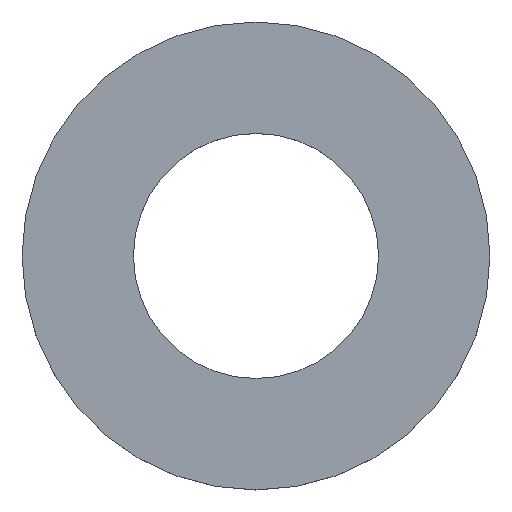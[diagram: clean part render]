
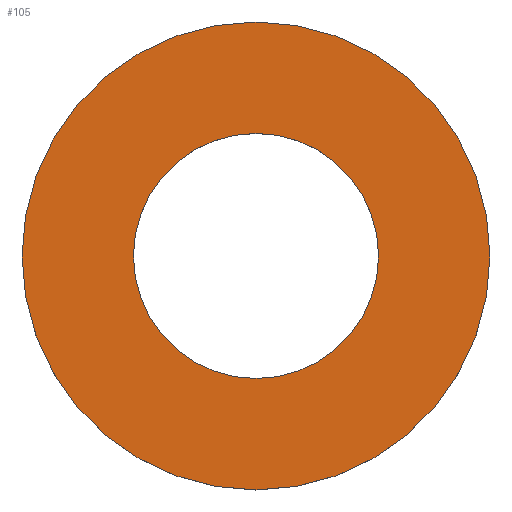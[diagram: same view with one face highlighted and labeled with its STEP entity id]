
A CAD part, top view. The second image highlights one B-rep face of the part: STEP entity #105.
In plain terms, the highlighted planar face has unit normal (0, 0, 1).
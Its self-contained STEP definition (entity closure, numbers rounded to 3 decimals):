
#21 = EDGE_CURVE('',#22,#22,#24,.T.);
#22 = VERTEX_POINT('',#23);
#23 = CARTESIAN_POINT('',(10.6,26.1,9.2));
#24 = SURFACE_CURVE('',#25,(#30,#42),.PCURVE_S1.);
#25 = CIRCLE('',#26,2.1);
#26 = AXIS2_PLACEMENT_3D('',#27,#28,#29);
#27 = CARTESIAN_POINT('',(8.5,26.1,9.2));
#28 = DIRECTION('',(0.,0.,1.));
#29 = DIRECTION('',(1.,0.,-0.));
#30 = PCURVE('',#31,#36);
#31 = CYLINDRICAL_SURFACE('',#32,2.1);
#32 = AXIS2_PLACEMENT_3D('',#33,#34,#35);
#33 = CARTESIAN_POINT('',(8.5,26.1,8.9));
#34 = DIRECTION('',(0.,0.,1.));
#35 = DIRECTION('',(1.,0.,-0.));
#36 = DEFINITIONAL_REPRESENTATION('',(#37),#41);
#37 = LINE('',#38,#39);
#38 = CARTESIAN_POINT('',(0.,0.3));
#39 = VECTOR('',#40,1.);
#40 = DIRECTION('',(1.,0.));
#41 = ( GEOMETRIC_REPRESENTATION_CONTEXT(2) 
PARAMETRIC_REPRESENTATION_CONTEXT() REPRESENTATION_CONTEXT('2D SPACE',''
  ) );
#42 = PCURVE('',#43,#48);
#43 = PLANE('',#44);
#44 = AXIS2_PLACEMENT_3D('',#45,#46,#47);
#45 = CARTESIAN_POINT('',(8.5,26.1,9.2));
#46 = DIRECTION('',(0.,0.,1.));
#47 = DIRECTION('',(1.,0.,-0.));
#48 = DEFINITIONAL_REPRESENTATION('',(#49),#53);
#49 = CIRCLE('',#50,2.1);
#50 = AXIS2_PLACEMENT_2D('',#51,#52);
#51 = CARTESIAN_POINT('',(0.,0.));
#52 = DIRECTION('',(1.,0.));
#53 = ( GEOMETRIC_REPRESENTATION_CONTEXT(2) 
PARAMETRIC_REPRESENTATION_CONTEXT() REPRESENTATION_CONTEXT('2D SPACE',''
  ) );
#105 = ADVANCED_FACE('',(#106,#109),#43,.T.);
#106 = FACE_BOUND('',#107,.T.);
#107 = EDGE_LOOP('',(#108));
#108 = ORIENTED_EDGE('',*,*,#21,.T.);
#109 = FACE_BOUND('',#110,.T.);
#110 = EDGE_LOOP('',(#111));
#111 = ORIENTED_EDGE('',*,*,#112,.F.);
#112 = EDGE_CURVE('',#113,#113,#115,.T.);
#113 = VERTEX_POINT('',#114);
#114 = CARTESIAN_POINT('',(9.6,26.1,9.2));
#115 = SURFACE_CURVE('',#116,(#121,#128),.PCURVE_S1.);
#116 = CIRCLE('',#117,1.1);
#117 = AXIS2_PLACEMENT_3D('',#118,#119,#120);
#118 = CARTESIAN_POINT('',(8.5,26.1,9.2));
#119 = DIRECTION('',(0.,0.,1.));
#120 = DIRECTION('',(1.,0.,-0.));
#121 = PCURVE('',#43,#122);
#122 = DEFINITIONAL_REPRESENTATION('',(#123),#127);
#123 = CIRCLE('',#124,1.1);
#124 = AXIS2_PLACEMENT_2D('',#125,#126);
#125 = CARTESIAN_POINT('',(0.,0.));
#126 = DIRECTION('',(1.,0.));
#127 = ( GEOMETRIC_REPRESENTATION_CONTEXT(2) 
PARAMETRIC_REPRESENTATION_CONTEXT() REPRESENTATION_CONTEXT('2D SPACE',''
  ) );
#128 = PCURVE('',#129,#134);
#129 = CYLINDRICAL_SURFACE('',#130,1.1);
#130 = AXIS2_PLACEMENT_3D('',#131,#132,#133);
#131 = CARTESIAN_POINT('',(8.5,26.1,8.8));
#132 = DIRECTION('',(0.,0.,1.));
#133 = DIRECTION('',(1.,0.,-0.));
#134 = DEFINITIONAL_REPRESENTATION('',(#135),#139);
#135 = LINE('',#136,#137);
#136 = CARTESIAN_POINT('',(0.,0.4));
#137 = VECTOR('',#138,1.);
#138 = DIRECTION('',(1.,0.));
#139 = ( GEOMETRIC_REPRESENTATION_CONTEXT(2) 
PARAMETRIC_REPRESENTATION_CONTEXT() REPRESENTATION_CONTEXT('2D SPACE',''
  ) );
